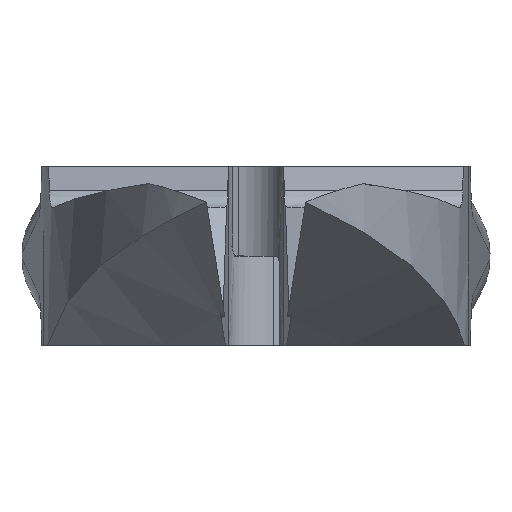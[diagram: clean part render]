
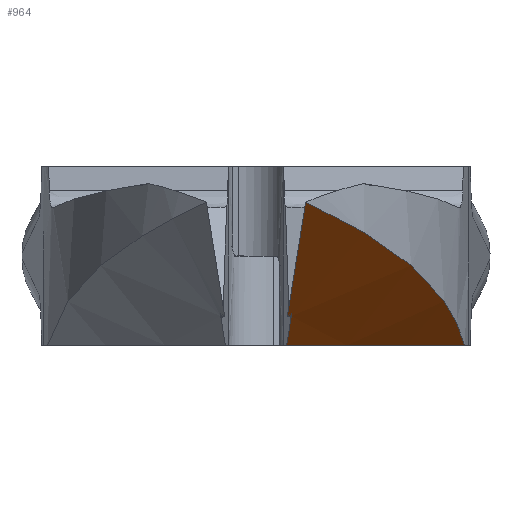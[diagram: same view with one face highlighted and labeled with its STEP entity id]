
A CAD part, left-side view. The second image highlights one B-rep face of the part: STEP entity #964.
In plain terms, the highlighted cylindrical face has radius 45 mm (diameter 90 mm), a partial arc.
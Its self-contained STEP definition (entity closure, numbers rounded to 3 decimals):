
#14 = DIRECTION ( 'NONE',  ( -0.866, 0., 0.5 ) ) ;
#271 = CARTESIAN_POINT ( 'NONE',  ( -17.041, -0.2, 1.467 ) ) ;
#283 = ORIENTED_EDGE ( 'NONE', *, *, #2824, .T. ) ;
#305 = EDGE_CURVE ( 'NONE', #513, #1771, #1256, .T. ) ;
#420 = CARTESIAN_POINT ( 'NONE',  ( -13.81, -6.361, 0. ) ) ;
#513 = VERTEX_POINT ( 'NONE', #1176 ) ;
#582 = ORIENTED_EDGE ( 'NONE', *, *, #4417, .T. ) ;
#964 = ADVANCED_FACE ( 'NONE', ( #4421 ), #3614, .T. ) ;
#999 = EDGE_CURVE ( 'NONE', #1771, #3215, #1710, .T. ) ;
#1038 = CARTESIAN_POINT ( 'NONE',  ( -17.041, -0.2, 1.467 ) ) ;
#1176 = CARTESIAN_POINT ( 'NONE',  ( -27., 0., 7.217 ) ) ;
#1256 = B_SPLINE_CURVE_WITH_KNOTS ( 'NONE', 3,
 ( #1933, #2050, #2072, #2086, #2243, #2259, #2338, #2386, #2403, #2419, #2435, #2455 ),
 .UNSPECIFIED., .F., .F.,
 ( 4, 2, 2, 2, 2, 4 ),
 ( 0., 0.005, 0.007, 0.009, 0.014, 0.019 ),
 .UNSPECIFIED. ) ;
#1652 = LINE ( 'NONE', #4932, #2576 ) ;
#1677 = ORIENTED_EDGE ( 'NONE', *, *, #305, .F. ) ;
#1710 =( BOUNDED_CURVE ( )  B_SPLINE_CURVE ( 3, ( #3949, #420, #2335, #2366 ),
 .UNSPECIFIED., .F., .T. ) 
 B_SPLINE_CURVE_WITH_KNOTS ( ( 4, 4 ),
 ( 6.073, 6.279 ),
 .UNSPECIFIED. ) 
 CURVE ( )  GEOMETRIC_REPRESENTATION_ITEM ( )  RATIONAL_B_SPLINE_CURVE ( ( 1., 0.996, 0.996, 1. ) ) 
 REPRESENTATION_ITEM ( '' )  );
#1771 = VERTEX_POINT ( 'NONE', #2789 ) ;
#1815 = CARTESIAN_POINT ( 'NONE',  ( -20.008, 0., 3.18 ) ) ;
#1933 = CARTESIAN_POINT ( 'NONE',  ( -27., 0., 7.217 ) ) ;
#2050 = CARTESIAN_POINT ( 'NONE',  ( -26.091, -1.212, 6.692 ) ) ;
#2072 = CARTESIAN_POINT ( 'NONE',  ( -25.087, -2.322, 6.168 ) ) ;
#2086 = CARTESIAN_POINT ( 'NONE',  ( -23.453, -3.838, 5.355 ) ) ;
#2216 = DIRECTION ( 'NONE',  ( 0.866, 0., -0.5 ) ) ;
#2243 = CARTESIAN_POINT ( 'NONE',  ( -22.887, -4.318, 5.079 ) ) ;
#2259 = CARTESIAN_POINT ( 'NONE',  ( -21.713, -5.226, 4.513 ) ) ;
#2335 = CARTESIAN_POINT ( 'NONE',  ( -14.472, -3.289, 0. ) ) ;
#2338 = CARTESIAN_POINT ( 'NONE',  ( -21.103, -5.656, 4.222 ) ) ;
#2366 = CARTESIAN_POINT ( 'NONE',  ( -14.499, -0.2, 0. ) ) ;
#2386 = CARTESIAN_POINT ( 'NONE',  ( -19.228, -6.856, 3.328 ) ) ;
#2403 = CARTESIAN_POINT ( 'NONE',  ( -17.934, -7.528, 2.711 ) ) ;
#2419 = CARTESIAN_POINT ( 'NONE',  ( -15.277, -8.634, 1.41 ) ) ;
#2435 = CARTESIAN_POINT ( 'NONE',  ( -13.914, -9.067, 0.726 ) ) ;
#2455 = CARTESIAN_POINT ( 'NONE',  ( -12.522, -9.383, 0. ) ) ;
#2576 = VECTOR ( 'NONE', #2987, 1000. ) ;
#2609 = CARTESIAN_POINT ( 'NONE',  ( -17.041, -0.133, 1.467 ) ) ;
#2789 = CARTESIAN_POINT ( 'NONE',  ( -12.522, -9.383, 0. ) ) ;
#2824 = EDGE_CURVE ( 'NONE', #513, #4590, #4419, .T. ) ;
#2987 = DIRECTION ( 'NONE',  ( 0.866, 0., -0.5 ) ) ;
#3177 = ORIENTED_EDGE ( 'NONE', *, *, #3505, .T. ) ;
#3215 = VERTEX_POINT ( 'NONE', #3803 ) ;
#3480 = VECTOR ( 'NONE', #2216, 1000. ) ;
#3505 = EDGE_CURVE ( 'NONE', #4178, #3215, #1652, .T. ) ;
#3614 = CYLINDRICAL_SURFACE ( 'NONE', #4454, 45. ) ;
#3803 = CARTESIAN_POINT ( 'NONE',  ( -14.499, -0.2, 0. ) ) ;
#3929 = DIRECTION ( 'NONE',  ( 0.5, 0., 0.866 ) ) ;
#3949 = CARTESIAN_POINT ( 'NONE',  ( -12.522, -9.383, 0. ) ) ;
#3965 = CARTESIAN_POINT ( 'NONE',  ( 9.567, 0., 38.066 ) ) ;
#4061 = EDGE_LOOP ( 'NONE', ( #4612, #1677, #283, #582, #3177 ) ) ;
#4178 = VERTEX_POINT ( 'NONE', #1038 ) ;
#4417 = EDGE_CURVE ( 'NONE', #4590, #4178, #4615, .T. ) ;
#4419 = LINE ( 'NONE', #1815, #3480 ) ;
#4421 = FACE_OUTER_BOUND ( 'NONE', #4061, .T. ) ;
#4454 = AXIS2_PLACEMENT_3D ( 'NONE', #3965, #14, #3929 ) ;
#4559 = CARTESIAN_POINT ( 'NONE',  ( -17.041, 0., 1.467 ) ) ;
#4590 = VERTEX_POINT ( 'NONE', #4728 ) ;
#4612 = ORIENTED_EDGE ( 'NONE', *, *, #999, .F. ) ;
#4615 =( BOUNDED_CURVE ( )  B_SPLINE_CURVE ( 3, ( #4559, #4935, #2609, #271 ),
 .UNSPECIFIED., .F., .F. ) 
 B_SPLINE_CURVE_WITH_KNOTS ( ( 4, 4 ),
 ( 3.142, 3.146 ),
 .UNSPECIFIED. ) 
 CURVE ( )  GEOMETRIC_REPRESENTATION_ITEM ( )  RATIONAL_B_SPLINE_CURVE ( ( 1., 1., 1., 1. ) ) 
 REPRESENTATION_ITEM ( '' )  );
#4728 = CARTESIAN_POINT ( 'NONE',  ( -17.041, 0., 1.467 ) ) ;
#4932 = CARTESIAN_POINT ( 'NONE',  ( -20.008, -0.2, 3.181 ) ) ;
#4935 = CARTESIAN_POINT ( 'NONE',  ( -17.041, -0.067, 1.467 ) ) ;
